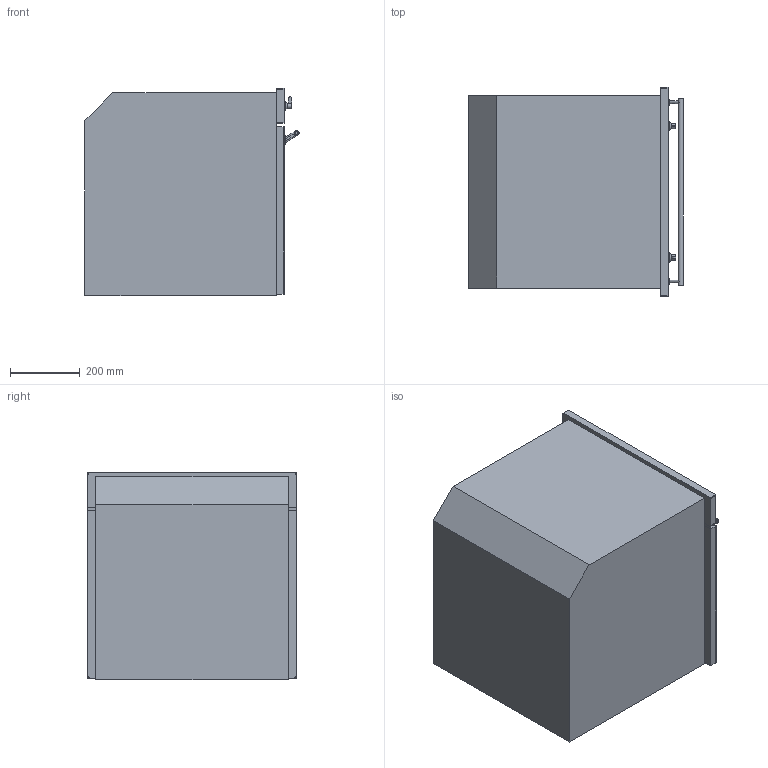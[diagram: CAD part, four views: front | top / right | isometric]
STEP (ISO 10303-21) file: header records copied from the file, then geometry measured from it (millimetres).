
FILE_DESCRIPTION(/* description */ (''),/* implementation_level */ '2;1');
FILE_NAME(/* name */ 'PIPPO.stp',/* time_stamp */ '2017-09-18T10:27:50+02:00',/* author */ (''),/* organization */ (''),/* preprocessor_version */ 'ST-DEVELOPER v16',/* originating_system */ 'SIEMENS PLM Software NX 11.0',/* authorisation */ '');
FILE_SCHEMA (('AUTOMOTIVE_DESIGN { 1 0 10303 214 3 1 1 1 }'));
Length unit declared in the file: millimetre
Products named in the file (1): fave14F8DFF5gr60
Bounding box: 612.5 x 597 x 592 mm (x, y, z)
Volume: 181011040.6 mm3; surface area: 3601750.9 mm2
Topology: 20 solids, 20 shells, 206 faces, 463 edges, 308 vertices
Faces by surface type: plane 136, cylinder 57, extrusion 11, cone 2
Full cylindrical faces by diameter (mm): 4 x2, 4.608 x6, 8.5 x4, 12 x2, 14 x1, 15 x2, 20 x2, 27 x2
Entity records: 5972 total; most frequent: CARTESIAN_POINT 1283, DIRECTION 919, ORIENTED_EDGE 862, EDGE_CURVE 431, AXIS2_PLACEMENT_3D 312, VERTEX_POINT 302, VECTOR 295, LINE 284
